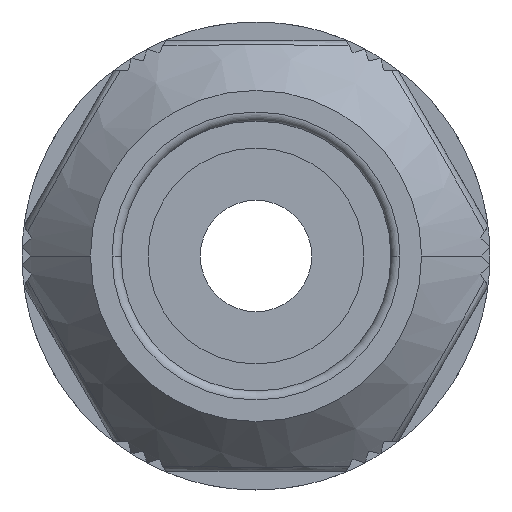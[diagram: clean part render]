
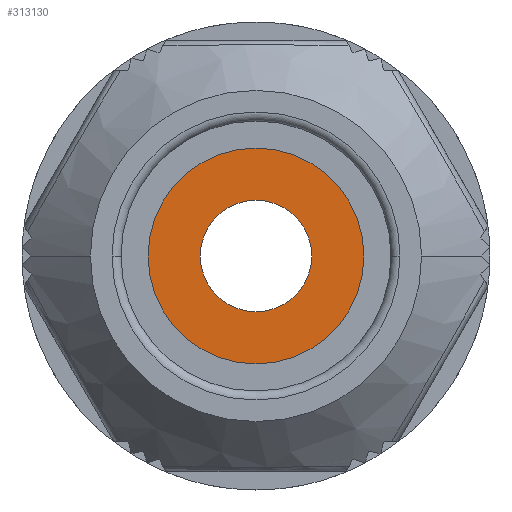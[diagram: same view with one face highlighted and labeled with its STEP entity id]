
A CAD part, left-side view. The second image highlights one B-rep face of the part: STEP entity #313130.
In plain terms, the highlighted planar face has unit normal (-1, 0, 0) as drawn and (0, 0, -1) by its records, which use the part's own axes.
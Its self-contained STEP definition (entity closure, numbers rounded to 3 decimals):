
#312780=CARTESIAN_POINT('',(0.,0.,0.));
#312790=DIRECTION('',(0.,0.,1.));
#312800=DIRECTION('',(1.,0.,0.));
#312810=AXIS2_PLACEMENT_3D('',#312780,#312790,#312800);
#312820=PLANE('',#312810);
#312830=CARTESIAN_POINT('',(0.,0.,0.));
#312840=DIRECTION('',(0.,0.,1.));
#312850=DIRECTION('',(1.,0.,0.));
#312860=AXIS2_PLACEMENT_3D('',#312830,#312840,#312850);
#312870=CIRCLE('',#312860,6.);
#312880=CARTESIAN_POINT('',(6.,0.,0.));
#312890=VERTEX_POINT('',#312880);
#312900=CARTESIAN_POINT('',(-6.,0.,0.));
#312910=VERTEX_POINT('',#312900);
#312920=EDGE_CURVE('',#312890,#312910,#312870,.T.);
#312930=ORIENTED_EDGE('',*,*,#312920,.F.);
#312940=EDGE_CURVE('',#312910,#312890,#312870,.T.);
#312950=ORIENTED_EDGE('',*,*,#312940,.F.);
#312960=EDGE_LOOP('',(#312950,#312930));
#312970=FACE_OUTER_BOUND('',#312960,.T.);
#312980=CARTESIAN_POINT('',(0.,0.,0.));
#312990=DIRECTION('',(0.,0.,1.));
#313000=DIRECTION('',(1.,0.,0.));
#313010=AXIS2_PLACEMENT_3D('',#312980,#312990,#313000);
#313020=CIRCLE('',#313010,3.1);
#313030=CARTESIAN_POINT('',(3.1,0.,0.));
#313040=VERTEX_POINT('',#313030);
#313050=CARTESIAN_POINT('',(-3.1,0.,0.));
#313060=VERTEX_POINT('',#313050);
#313070=EDGE_CURVE('',#313040,#313060,#313020,.T.);
#313080=ORIENTED_EDGE('',*,*,#313070,.T.);
#313090=EDGE_CURVE('',#313060,#313040,#313020,.T.);
#313100=ORIENTED_EDGE('',*,*,#313090,.T.);
#313110=EDGE_LOOP('',(#313100,#313080));
#313120=FACE_BOUND('',#313110,.T.);
#313130=ADVANCED_FACE('',(#312970,#313120),#312820,.F.);
